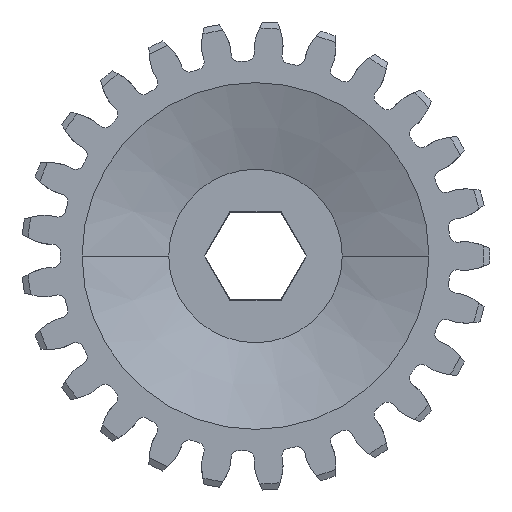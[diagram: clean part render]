
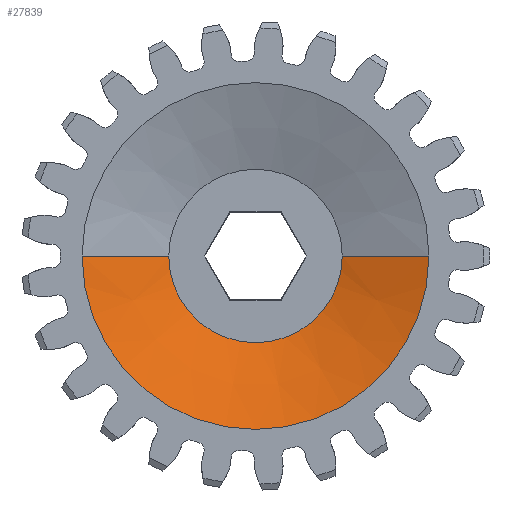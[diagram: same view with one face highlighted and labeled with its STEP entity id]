
A CAD part, left-side view. The second image highlights one B-rep face of the part: STEP entity #27839.
In plain terms, the highlighted conical face has half-angle 70.608 degrees and reference radius 12.7 mm.
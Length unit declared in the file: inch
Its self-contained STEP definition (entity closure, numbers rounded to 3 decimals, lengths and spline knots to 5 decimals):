
#588 = EDGE_CURVE ( 'NONE', #991, #25428, #9407, .T. ) ;
#786 = LINE ( 'NONE', #23724, #2376 ) ;
#872 = CARTESIAN_POINT ( 'NONE',  ( 9.19569, -3.80822, 14.69083 ) ) ;
#991 = VERTEX_POINT ( 'NONE', #10390 ) ;
#2376 = VECTOR ( 'NONE', #5277, 39.37008 ) ;
#2453 = EDGE_CURVE ( 'NONE', #26239, #25141, #786, .T. ) ;
#3163 = AXIS2_PLACEMENT_3D ( 'NONE', #7769, #23964, #24255 ) ;
#3272 = CARTESIAN_POINT ( 'NONE',  ( 9.19569, -4.80822, 14.69083 ) ) ;
#3648 = CONICAL_SURFACE ( 'NONE', #3163, 0.5, 1.232 ) ;
#4418 = CIRCLE ( 'NONE', #8261, 1. ) ;
#4804 = EDGE_CURVE ( 'NONE', #25141, #25428, #4418, .T. ) ;
#5277 = DIRECTION ( 'NONE',  ( -0.332, -0.943, 0. ) ) ;
#5994 = AXIS2_PLACEMENT_3D ( 'NONE', #13864, #9526, #20478 ) ;
#6169 = VECTOR ( 'NONE', #7756, 39.37008 ) ;
#6368 = ORIENTED_EDGE ( 'NONE', *, *, #26479, .F. ) ;
#7674 = DIRECTION ( 'NONE',  ( 1., 0., 0. ) ) ;
#7756 = DIRECTION ( 'NONE',  ( -0.332, 0.943, 0. ) ) ;
#7769 = CARTESIAN_POINT ( 'NONE',  ( 9.19569, -4.30822, 14.69083 ) ) ;
#8261 = AXIS2_PLACEMENT_3D ( 'NONE', #21753, #7674, #16963 ) ;
#8922 = CIRCLE ( 'NONE', #5994, 0.5 ) ;
#9407 = LINE ( 'NONE', #872, #6169 ) ;
#9526 = DIRECTION ( 'NONE',  ( -1., 0., 0. ) ) ;
#10390 = CARTESIAN_POINT ( 'NONE',  ( 9.19569, -3.80822, 14.69083 ) ) ;
#13864 = CARTESIAN_POINT ( 'NONE',  ( 9.19569, -4.30822, 14.69083 ) ) ;
#15375 = ORIENTED_EDGE ( 'NONE', *, *, #4804, .F. ) ;
#16963 = DIRECTION ( 'NONE',  ( 0., 1., 0. ) ) ;
#17392 = CARTESIAN_POINT ( 'NONE',  ( 9.01969, -3.30822, 14.69083 ) ) ;
#17944 = EDGE_LOOP ( 'NONE', ( #6368, #19536, #15375, #25165 ) ) ;
#18163 = CARTESIAN_POINT ( 'NONE',  ( 9.01969, -5.30822, 14.69083 ) ) ;
#19170 = FACE_OUTER_BOUND ( 'NONE', #17944, .T. ) ;
#19536 = ORIENTED_EDGE ( 'NONE', *, *, #588, .T. ) ;
#20478 = DIRECTION ( 'NONE',  ( 0., -1., 0. ) ) ;
#21753 = CARTESIAN_POINT ( 'NONE',  ( 9.01969, -4.30822, 14.69083 ) ) ;
#23724 = CARTESIAN_POINT ( 'NONE',  ( 9.19569, -4.80822, 14.69083 ) ) ;
#23964 = DIRECTION ( 'NONE',  ( -1., 0., 0. ) ) ;
#24255 = DIRECTION ( 'NONE',  ( 0., -1., 0. ) ) ;
#25141 = VERTEX_POINT ( 'NONE', #18163 ) ;
#25165 = ORIENTED_EDGE ( 'NONE', *, *, #2453, .F. ) ;
#25428 = VERTEX_POINT ( 'NONE', #17392 ) ;
#26239 = VERTEX_POINT ( 'NONE', #3272 ) ;
#26479 = EDGE_CURVE ( 'NONE', #991, #26239, #8922, .T. ) ;
#27839 = ADVANCED_FACE ( 'NONE', ( #19170 ), #3648, .F. ) ;
